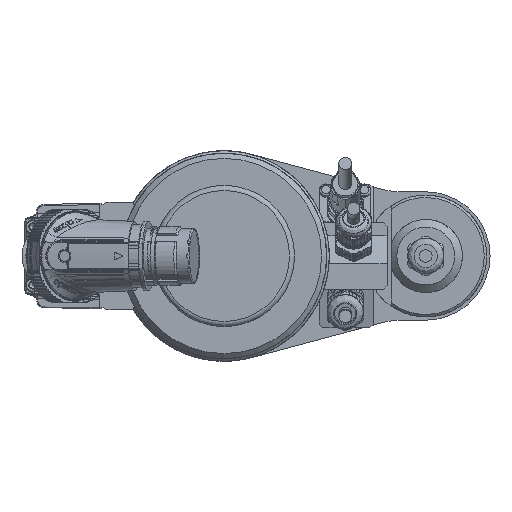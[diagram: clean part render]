
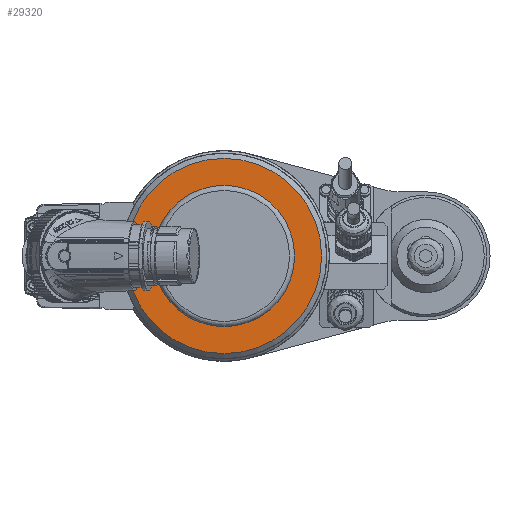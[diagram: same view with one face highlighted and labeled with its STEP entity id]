
A CAD part, left-side view. The second image highlights one B-rep face of the part: STEP entity #29320.
In plain terms, the highlighted planar face has unit normal (-1, 0, 0).
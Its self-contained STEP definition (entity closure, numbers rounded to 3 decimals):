
#8528 = CARTESIAN_POINT ( 'NONE',  ( -357.5, 0., 37.999 ) ) ;
#25535 = VERTEX_POINT ( 'NONE', #8528 ) ;
#29320 = ADVANCED_FACE ( 'NONE', ( #111625, #111846 ), #84609, .T. ) ;
#47647 = CARTESIAN_POINT ( 'NONE',  ( -357.5, 0., 0. ) ) ;
#50851 = EDGE_CURVE ( 'NONE', #25535, #25535, #107280, .T. ) ;
#51877 = ORIENTED_EDGE ( 'NONE', *, *, #111025, .T. ) ;
#52949 = DIRECTION ( 'NONE',  ( -1., 0., 0. ) ) ;
#54062 = CIRCLE ( 'NONE', #111910, 27.5 ) ;
#56723 = DIRECTION ( 'NONE',  ( 0., 0., 1. ) ) ;
#57211 = DIRECTION ( 'NONE',  ( 0., 0., -1. ) ) ;
#62452 = AXIS2_PLACEMENT_3D ( 'NONE', #109250, #52949, #118630 ) ;
#64233 = EDGE_LOOP ( 'NONE', ( #77426 ) ) ;
#72341 = CARTESIAN_POINT ( 'NONE',  ( -357.5, 0., -27.5 ) ) ;
#75208 = CARTESIAN_POINT ( 'NONE',  ( -357.5, 27.5, 0. ) ) ;
#77426 = ORIENTED_EDGE ( 'NONE', *, *, #50851, .T. ) ;
#84609 = PLANE ( 'NONE',  #91904 ) ;
#89474 = VERTEX_POINT ( 'NONE', #72341 ) ;
#91904 = AXIS2_PLACEMENT_3D ( 'NONE', #75208, #112934, #56723 ) ;
#107280 = CIRCLE ( 'NONE', #62452, 37.999 ) ;
#109250 = CARTESIAN_POINT ( 'NONE',  ( -357.5, 0., 0. ) ) ;
#111025 = EDGE_CURVE ( 'NONE', #89474, #89474, #54062, .T. ) ;
#111625 = FACE_OUTER_BOUND ( 'NONE', #64233, .T. ) ;
#111846 = FACE_BOUND ( 'NONE', #114553, .T. ) ;
#111910 = AXIS2_PLACEMENT_3D ( 'NONE', #47647, #113429, #57211 ) ;
#112934 = DIRECTION ( 'NONE',  ( -1., 0., 0. ) ) ;
#113429 = DIRECTION ( 'NONE',  ( 1., 0., 0. ) ) ;
#114553 = EDGE_LOOP ( 'NONE', ( #51877 ) ) ;
#118630 = DIRECTION ( 'NONE',  ( 0., 0., 1. ) ) ;
